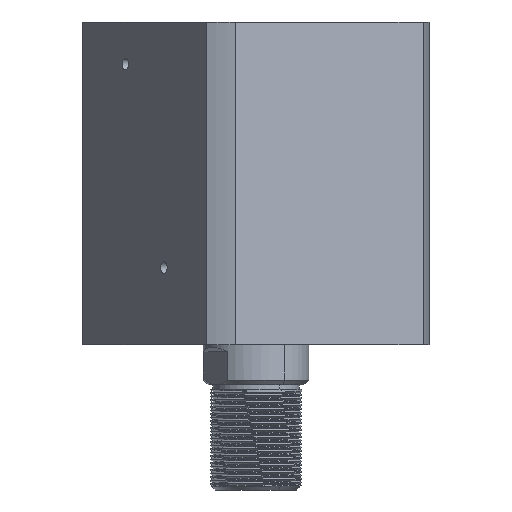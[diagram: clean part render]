
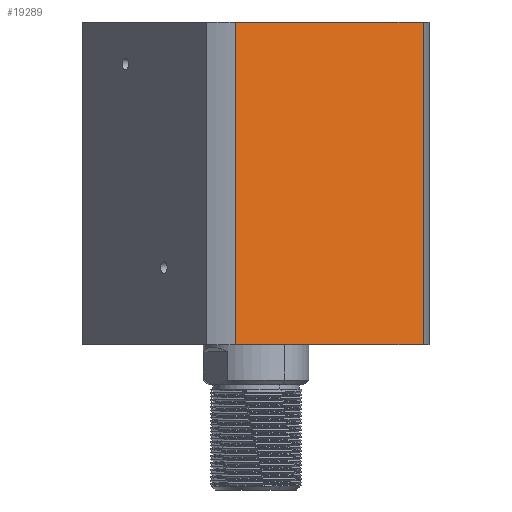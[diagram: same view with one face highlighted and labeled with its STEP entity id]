
A CAD part, front view. The second image highlights one B-rep face of the part: STEP entity #19289.
In plain terms, the highlighted planar face has unit normal (0.549, -0.836, 0) as drawn and (1, 0, 0) by its records, which use the part's own axes.
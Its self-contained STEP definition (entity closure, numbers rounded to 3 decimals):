
#702 = ORIENTED_EDGE ( 'NONE', *, *, #9715, .F. ) ;
#1247 = CARTESIAN_POINT ( 'NONE',  ( 57., 57., 138. ) ) ;
#1641 = DIRECTION ( 'NONE',  ( 0., 1., 0. ) ) ;
#2010 = CARTESIAN_POINT ( 'NONE',  ( 57., 47.971, -162. ) ) ;
#2049 = VECTOR ( 'NONE', #13049, 1000. ) ;
#2126 = FACE_OUTER_BOUND ( 'NONE', #14556, .T. ) ;
#2751 = CARTESIAN_POINT ( 'NONE',  ( 57., -47.971, 0. ) ) ;
#2761 = ORIENTED_EDGE ( 'NONE', *, *, #20143, .F. ) ;
#2988 = PLANE ( 'NONE',  #14953 ) ;
#3067 = EDGE_CURVE ( 'NONE', #8376, #6447, #6252, .T. ) ;
#3613 = EDGE_CURVE ( 'NONE', #10666, #6447, #11689, .T. ) ;
#4555 = DIRECTION ( 'NONE',  ( -1., 0., 0. ) ) ;
#6252 = LINE ( 'NONE', #2010, #2049 ) ;
#6447 = VERTEX_POINT ( 'NONE', #13614 ) ;
#6545 = VERTEX_POINT ( 'NONE', #17206 ) ;
#8376 = VERTEX_POINT ( 'NONE', #19958 ) ;
#9458 = CARTESIAN_POINT ( 'NONE',  ( 57., -47.971, -162. ) ) ;
#9537 = CARTESIAN_POINT ( 'NONE',  ( 57., 57., 0. ) ) ;
#9715 = EDGE_CURVE ( 'NONE', #10666, #6545, #17164, .T. ) ;
#10188 = ORIENTED_EDGE ( 'NONE', *, *, #3067, .F. ) ;
#10666 = VERTEX_POINT ( 'NONE', #2751 ) ;
#11316 = ORIENTED_EDGE ( 'NONE', *, *, #3613, .T. ) ;
#11689 = LINE ( 'NONE', #9537, #15376 ) ;
#12092 = VECTOR ( 'NONE', #15715, 1000. ) ;
#12246 = VECTOR ( 'NONE', #15541, 1000. ) ;
#12749 = LINE ( 'NONE', #1247, #12246 ) ;
#13049 = DIRECTION ( 'NONE',  ( 0., 0., -1. ) ) ;
#13614 = CARTESIAN_POINT ( 'NONE',  ( 57., 47.971, 0. ) ) ;
#14556 = EDGE_LOOP ( 'NONE', ( #702, #11316, #10188, #2761 ) ) ;
#14953 = AXIS2_PLACEMENT_3D ( 'NONE', #20330, #4555, #15613 ) ;
#15376 = VECTOR ( 'NONE', #1641, 1000. ) ;
#15541 = DIRECTION ( 'NONE',  ( 0., 1., 0. ) ) ;
#15613 = DIRECTION ( 'NONE',  ( 0., -1., 0. ) ) ;
#15715 = DIRECTION ( 'NONE',  ( 0., 0., 1. ) ) ;
#17164 = LINE ( 'NONE', #9458, #12092 ) ;
#17206 = CARTESIAN_POINT ( 'NONE',  ( 57., -47.971, 138. ) ) ;
#19289 = ADVANCED_FACE ( 'NONE', ( #2126 ), #2988, .F. ) ;
#19958 = CARTESIAN_POINT ( 'NONE',  ( 57., 47.971, 138. ) ) ;
#20143 = EDGE_CURVE ( 'NONE', #6545, #8376, #12749, .T. ) ;
#20330 = CARTESIAN_POINT ( 'NONE',  ( 57., 57., 138. ) ) ;
